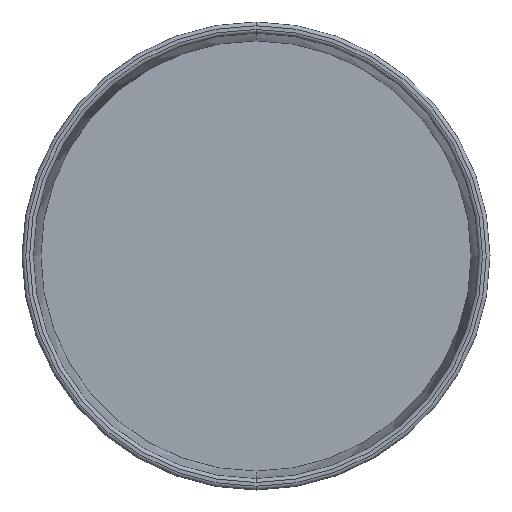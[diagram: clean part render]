
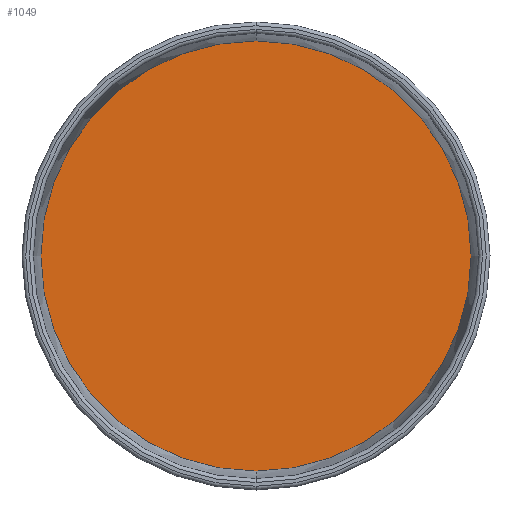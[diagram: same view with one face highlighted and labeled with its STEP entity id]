
A CAD part, front view. The second image highlights one B-rep face of the part: STEP entity #1049.
In plain terms, the highlighted planar face has unit normal (0, -1, 0).
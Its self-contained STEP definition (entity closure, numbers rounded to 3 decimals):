
#39 = CARTESIAN_POINT ( 'NONE',  ( 0., 13.717, 57.454 ) ) ;
#162 = DIRECTION ( 'NONE',  ( 0., 1., 0. ) ) ;
#168 = VERTEX_POINT ( 'NONE', #39 ) ;
#203 = CIRCLE ( 'NONE', #1211, 57.454 ) ;
#304 = AXIS2_PLACEMENT_3D ( 'NONE', #1055, #162, #777 ) ;
#364 = CARTESIAN_POINT ( 'NONE',  ( 0., 13.717, 0. ) ) ;
#373 = ORIENTED_EDGE ( 'NONE', *, *, #1294, .F. ) ;
#380 = CARTESIAN_POINT ( 'NONE',  ( 0., 13.717, -57.454 ) ) ;
#496 = CIRCLE ( 'NONE', #304, 57.454 ) ;
#699 = EDGE_CURVE ( 'NONE', #168, #1255, #496, .T. ) ;
#721 = PLANE ( 'NONE',  #784 ) ;
#769 = DIRECTION ( 'NONE',  ( 0., 1., 0. ) ) ;
#777 = DIRECTION ( 'NONE',  ( 0., 0., 1. ) ) ;
#784 = AXIS2_PLACEMENT_3D ( 'NONE', #1133, #1009, #1221 ) ;
#819 = FACE_OUTER_BOUND ( 'NONE', #1077, .T. ) ;
#1009 = DIRECTION ( 'NONE',  ( 0., -1., 0. ) ) ;
#1049 = ADVANCED_FACE ( 'NONE', ( #819 ), #721, .T. ) ;
#1055 = CARTESIAN_POINT ( 'NONE',  ( 0., 13.717, 0. ) ) ;
#1077 = EDGE_LOOP ( 'NONE', ( #1269, #373 ) ) ;
#1133 = CARTESIAN_POINT ( 'NONE',  ( -57.454, 13.717, 0. ) ) ;
#1184 = DIRECTION ( 'NONE',  ( 0., 0., 1. ) ) ;
#1211 = AXIS2_PLACEMENT_3D ( 'NONE', #364, #769, #1184 ) ;
#1221 = DIRECTION ( 'NONE',  ( 0., 0., -1. ) ) ;
#1255 = VERTEX_POINT ( 'NONE', #380 ) ;
#1269 = ORIENTED_EDGE ( 'NONE', *, *, #699, .F. ) ;
#1294 = EDGE_CURVE ( 'NONE', #1255, #168, #203, .T. ) ;
